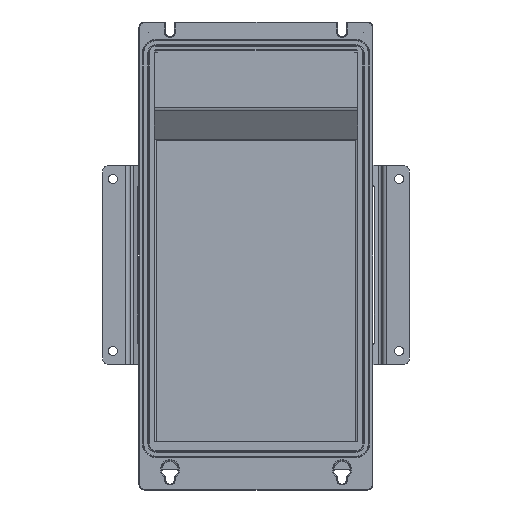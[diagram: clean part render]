
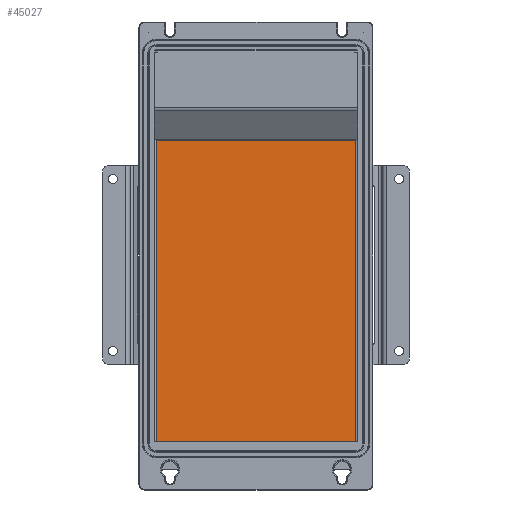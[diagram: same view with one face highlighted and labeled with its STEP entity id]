
A CAD part, front view. The second image highlights one B-rep face of the part: STEP entity #45027.
In plain terms, the highlighted planar face has unit normal (0, -1, 0).
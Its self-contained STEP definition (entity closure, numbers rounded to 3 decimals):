
#2326 = LINE ( 'NONE', #16432, #35184 ) ;
#3365 = CARTESIAN_POINT ( 'NONE',  ( -72.616, -73.5, -225. ) ) ;
#4229 = VECTOR ( 'NONE', #37635, 1000. ) ;
#4530 = CARTESIAN_POINT ( 'NONE',  ( 0., -73.5, -6.261 ) ) ;
#5350 = VERTEX_POINT ( 'NONE', #44993 ) ;
#6138 = DIRECTION ( 'NONE',  ( -1., 0., 0. ) ) ;
#10840 = VECTOR ( 'NONE', #6138, 1000. ) ;
#11754 = CARTESIAN_POINT ( 'NONE',  ( 0., -73.5, -83.5 ) ) ;
#11879 = EDGE_CURVE ( 'NONE', #5350, #18288, #16401, .T. ) ;
#11889 = CARTESIAN_POINT ( 'NONE',  ( -72., -73.5, -225. ) ) ;
#12099 = EDGE_CURVE ( 'NONE', #40272, #5350, #56572, .T. ) ;
#12526 = DIRECTION ( 'NONE',  ( 0., 0., -1. ) ) ;
#15280 = DIRECTION ( 'NONE',  ( 0., 1., 0. ) ) ;
#16401 = LINE ( 'NONE', #11889, #10840 ) ;
#16432 = CARTESIAN_POINT ( 'NONE',  ( -72.616, -73.5, -1.098 ) ) ;
#18288 = VERTEX_POINT ( 'NONE', #3365 ) ;
#20636 = EDGE_LOOP ( 'NONE', ( #28873, #20885, #27051, #47154 ) ) ;
#20885 = ORIENTED_EDGE ( 'NONE', *, *, #53927, .F. ) ;
#25074 = VECTOR ( 'NONE', #12526, 1000. ) ;
#27051 = ORIENTED_EDGE ( 'NONE', *, *, #11879, .F. ) ;
#28873 = ORIENTED_EDGE ( 'NONE', *, *, #38610, .T. ) ;
#34930 = FACE_OUTER_BOUND ( 'NONE', #20636, .T. ) ;
#35184 = VECTOR ( 'NONE', #61094, 1000. ) ;
#37635 = DIRECTION ( 'NONE',  ( -1., 0., 0. ) ) ;
#38610 = EDGE_CURVE ( 'NONE', #40272, #54540, #47886, .T. ) ;
#40272 = VERTEX_POINT ( 'NONE', #40888 ) ;
#40888 = CARTESIAN_POINT ( 'NONE',  ( 72.616, -73.5, -6.261 ) ) ;
#44993 = CARTESIAN_POINT ( 'NONE',  ( 72.616, -73.5, -225. ) ) ;
#45027 = ADVANCED_FACE ( 'NONE', ( #34930 ), #45521, .F. ) ;
#45521 = PLANE ( 'NONE',  #47812 ) ;
#47154 = ORIENTED_EDGE ( 'NONE', *, *, #12099, .F. ) ;
#47216 = CARTESIAN_POINT ( 'NONE',  ( 72.616, -73.5, -1.098 ) ) ;
#47812 = AXIS2_PLACEMENT_3D ( 'NONE', #11754, #15280, #59674 ) ;
#47886 = LINE ( 'NONE', #4530, #4229 ) ;
#51692 = CARTESIAN_POINT ( 'NONE',  ( -72.616, -73.5, -6.261 ) ) ;
#53927 = EDGE_CURVE ( 'NONE', #18288, #54540, #2326, .T. ) ;
#54540 = VERTEX_POINT ( 'NONE', #51692 ) ;
#56572 = LINE ( 'NONE', #47216, #25074 ) ;
#59674 = DIRECTION ( 'NONE',  ( 1., 0., 0. ) ) ;
#61094 = DIRECTION ( 'NONE',  ( 0., 0., 1. ) ) ;
